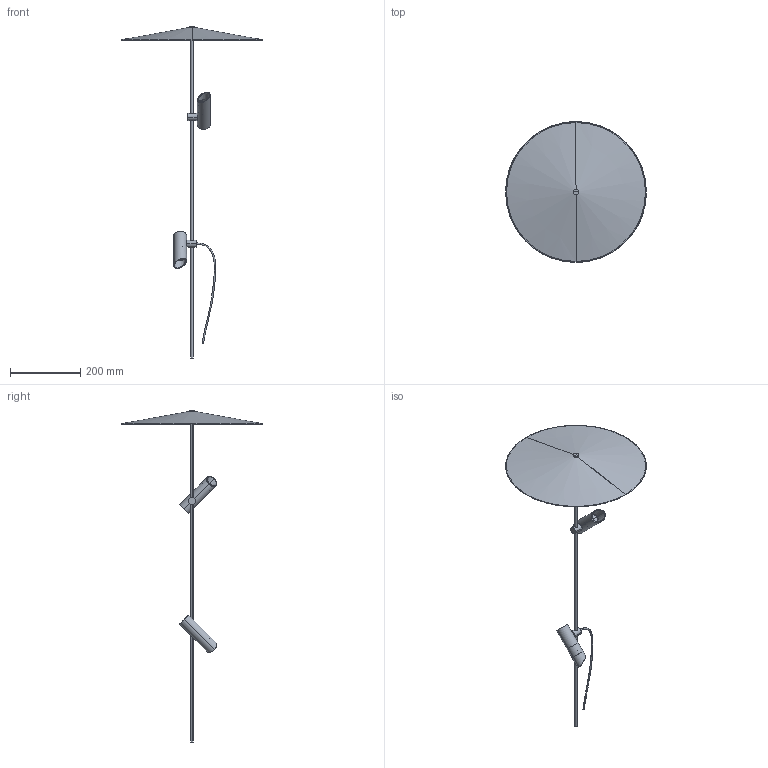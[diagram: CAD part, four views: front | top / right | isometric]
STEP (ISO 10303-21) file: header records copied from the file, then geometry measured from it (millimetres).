
FILE_DESCRIPTION(/* description */ (''),/* implementation_level */ '2;1');
FILE_NAME(/* name */ 'clap_spike_1030_p.step',/* time_stamp */ '2025-02-26T11:22:59+01:00',/* author */ ('RenataManzini'),/* organization */ (''),/* preprocessor_version */ 'ST-DEVELOPER v20',/* originating_system */ 'AutoCAD Mechanical',/* authorisation */ '');
FILE_SCHEMA (('AUTOMOTIVE_DESIGN { 1 0 10303 214 3 1 1 }'));
Length unit declared in the file: millimetre
Products named in the file (4): Product; CLAP_ pantalla_l - CLAP Accesorio pantalla L negro-486579-_3D_; CLAP_ pantalla_s - CLAP Accesorio pantalla S negro-491443-_3D_; CLAP_ lamp - CLAP Proyector-489792-_3D_
Assembly tree (5 placements, depth 2):
  Product
    CLAP_ pantalla_s - CLAP Accesorio pantalla S negro-491443-_3D_  x2
    CLAP_ lamp - CLAP Proyector-489792-_3D_  x2
    CLAP_ pantalla_l - CLAP Accesorio pantalla L negro-486579-_3D_
Bounding box: 400 x 400 x 943 mm (x, y, z)
Volume: 426310.3 mm3; surface area: 336798.6 mm2
Topology: 11 solids, 11 shells, 102 faces, 182 edges, 102 vertices
Faces by surface type: plane 52, cylinder 34, cone 12, torus 2, bspline 2
Entity records: 3030 total; most frequent: CARTESIAN_POINT 1671, DIRECTION 292, ORIENTED_EDGE 236, AXIS2_PLACEMENT_3D 122, EDGE_CURVE 118, EDGE_LOOP 68, VERTEX_POINT 66, FACE_OUTER_BOUND 65
